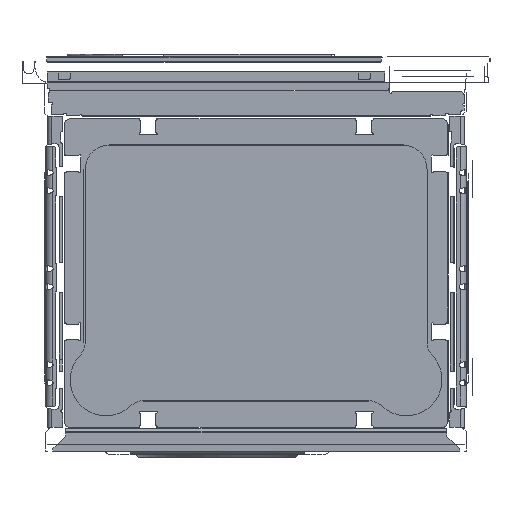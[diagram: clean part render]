
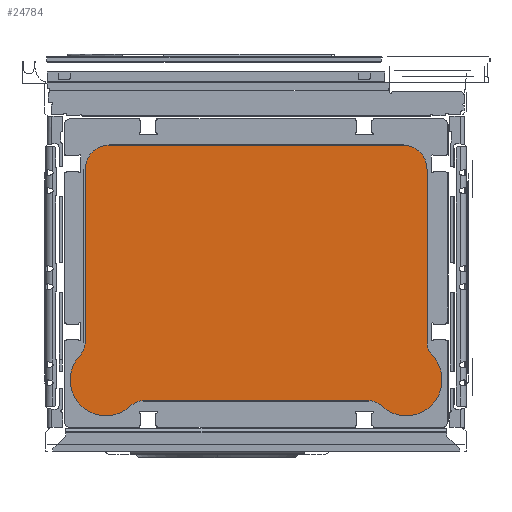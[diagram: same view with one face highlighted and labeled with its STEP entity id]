
A CAD part, left-side view. The second image highlights one B-rep face of the part: STEP entity #24784.
In plain terms, the highlighted planar face has unit normal (-1, 0, 0).
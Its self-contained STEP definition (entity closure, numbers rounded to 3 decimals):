
#24141=DIRECTION('',(0.,-1.,0.));
#24142=VECTOR('',#24141,187.751);
#24143=CARTESIAN_POINT('',(-276.6,61.375,29.515));
#24144=LINE('',#24143,#24142);
#24145=CARTESIAN_POINT('',(-276.6,61.375,14.4));
#24146=DIRECTION('',(-1.,0.,0.));
#24147=DIRECTION('',(0.,0.,1.));
#24148=AXIS2_PLACEMENT_3D('',#24145,#24146,#24147);
#24150=CARTESIAN_POINT('',(-276.6,92.5,46.9));
#24151=DIRECTION('',(1.,0.,0.));
#24152=DIRECTION('',(0.,-0.692,
-0.722));
#24153=AXIS2_PLACEMENT_3D('',#24150,#24151,#24152);
#24155=CARTESIAN_POINT('',(-276.6,125.,78.025));
#24156=DIRECTION('',(-1.,0.,0.));
#24157=DIRECTION('',(0.,-0.722,
-0.692));
#24158=AXIS2_PLACEMENT_3D('',#24155,#24156,#24157);
#24160=DIRECTION('',(0.,0.,1.));
#24161=VECTOR('',#24160,144.375);
#24162=CARTESIAN_POINT('',(-276.6,109.885,78.025));
#24163=LINE('',#24162,#24161);
#24164=CARTESIAN_POINT('',(-276.6,90.,222.4));
#24165=DIRECTION('',(1.,0.,0.));
#24166=DIRECTION('',(0.,1.,0.));
#24167=AXIS2_PLACEMENT_3D('',#24164,#24165,#24166);
#24169=DIRECTION('',(0.,1.,0.));
#24170=VECTOR('',#24169,245.);
#24171=CARTESIAN_POINT('',(-276.6,-155.,242.285));
#24172=LINE('',#24171,#24170);
#24173=CARTESIAN_POINT('',(-276.6,-155.,222.4));
#24174=DIRECTION('',(1.,0.,0.));
#24175=DIRECTION('',(0.,0.,1.));
#24176=AXIS2_PLACEMENT_3D('',#24173,#24174,#24175);
#24178=DIRECTION('',(0.,0.,1.));
#24179=VECTOR('',#24178,144.375);
#24180=CARTESIAN_POINT('',(-276.6,-174.885,78.025));
#24181=LINE('',#24180,#24179);
#24182=CARTESIAN_POINT('',(-276.6,-190.,78.025));
#24183=DIRECTION('',(-1.,0.,0.));
#24184=DIRECTION('',(0.,1.,0.));
#24185=AXIS2_PLACEMENT_3D('',#24182,#24183,#24184);
#24187=CARTESIAN_POINT('',(-276.6,-157.5,46.9));
#24188=DIRECTION('',(1.,0.,0.));
#24189=DIRECTION('',(0.,-0.722,0.692));
#24190=AXIS2_PLACEMENT_3D('',#24187,#24188,#24189);
#24192=CARTESIAN_POINT('',(-276.6,-126.375,14.4));
#24193=DIRECTION('',(-1.,0.,0.));
#24194=DIRECTION('',(0.,-0.692,0.722));
#24195=AXIS2_PLACEMENT_3D('',#24192,#24193,#24194);
#24418=CARTESIAN_POINT('',(-276.6,-174.885,78.025));
#24419=CARTESIAN_POINT('',(-276.6,-174.885,222.4));
#24420=VERTEX_POINT('',#24418);
#24421=VERTEX_POINT('',#24419);
#24422=CARTESIAN_POINT('',(-276.6,-179.083,67.57));
#24423=VERTEX_POINT('',#24422);
#24424=CARTESIAN_POINT('',(-276.6,109.885,222.4));
#24425=CARTESIAN_POINT('',(-276.6,109.885,78.025));
#24426=VERTEX_POINT('',#24424);
#24427=VERTEX_POINT('',#24425);
#24428=CARTESIAN_POINT('',(-276.6,90.,242.285));
#24429=VERTEX_POINT('',#24428);
#24430=CARTESIAN_POINT('',(-276.6,-155.,242.285));
#24431=VERTEX_POINT('',#24430);
#24448=CARTESIAN_POINT('',(-276.6,61.375,29.515));
#24449=CARTESIAN_POINT('',(-276.6,-126.375,29.515));
#24450=VERTEX_POINT('',#24448);
#24451=VERTEX_POINT('',#24449);
#24452=CARTESIAN_POINT('',(-276.6,71.83,25.317));
#24453=VERTEX_POINT('',#24452);
#24454=CARTESIAN_POINT('',(-276.6,114.083,67.57));
#24455=VERTEX_POINT('',#24454);
#24456=CARTESIAN_POINT('',(-276.6,-136.83,25.317));
#24457=VERTEX_POINT('',#24456);
#24753=CARTESIAN_POINT('',(-276.6,-32.5,136.9));
#24754=DIRECTION('',(-1.,0.,0.));
#24755=DIRECTION('',(0.,0.,-1.));
#24756=AXIS2_PLACEMENT_3D('',#24753,#24754,#24755);
#24757=PLANE('',#24756);
#24759=ORIENTED_EDGE('',*,*,#24758,.F.);
#24761=ORIENTED_EDGE('',*,*,#24760,.T.);
#24763=ORIENTED_EDGE('',*,*,#24762,.T.);
#24765=ORIENTED_EDGE('',*,*,#24764,.T.);
#24767=ORIENTED_EDGE('',*,*,#24766,.T.);
#24769=ORIENTED_EDGE('',*,*,#24768,.T.);
#24771=ORIENTED_EDGE('',*,*,#24770,.F.);
#24773=ORIENTED_EDGE('',*,*,#24772,.T.);
#24775=ORIENTED_EDGE('',*,*,#24774,.F.);
#24777=ORIENTED_EDGE('',*,*,#24776,.T.);
#24779=ORIENTED_EDGE('',*,*,#24778,.T.);
#24781=ORIENTED_EDGE('',*,*,#24780,.T.);
#24782=EDGE_LOOP('',(#24759,#24761,#24763,#24765,#24767,#24769,#24771,#24773,
#24775,#24777,#24779,#24781));
#24783=FACE_OUTER_BOUND('',#24782,.F.);
#24149=CIRCLE('',#24148,15.115);
#24154=CIRCLE('',#24153,29.885);
#24159=CIRCLE('',#24158,15.115);
#24168=CIRCLE('',#24167,19.885);
#24177=CIRCLE('',#24176,19.885);
#24186=CIRCLE('',#24185,15.115);
#24191=CIRCLE('',#24190,29.885);
#24196=CIRCLE('',#24195,15.115);
#24758=EDGE_CURVE('',#24450,#24451,#24144,.T.);
#24760=EDGE_CURVE('',#24450,#24453,#24149,.T.);
#24762=EDGE_CURVE('',#24453,#24455,#24154,.T.);
#24764=EDGE_CURVE('',#24455,#24427,#24159,.T.);
#24766=EDGE_CURVE('',#24427,#24426,#24163,.T.);
#24768=EDGE_CURVE('',#24426,#24429,#24168,.T.);
#24770=EDGE_CURVE('',#24431,#24429,#24172,.T.);
#24772=EDGE_CURVE('',#24431,#24421,#24177,.T.);
#24774=EDGE_CURVE('',#24420,#24421,#24181,.T.);
#24776=EDGE_CURVE('',#24420,#24423,#24186,.T.);
#24778=EDGE_CURVE('',#24423,#24457,#24191,.T.);
#24780=EDGE_CURVE('',#24457,#24451,#24196,.T.);
#24784=ADVANCED_FACE('',(#24783),#24757,.T.);
